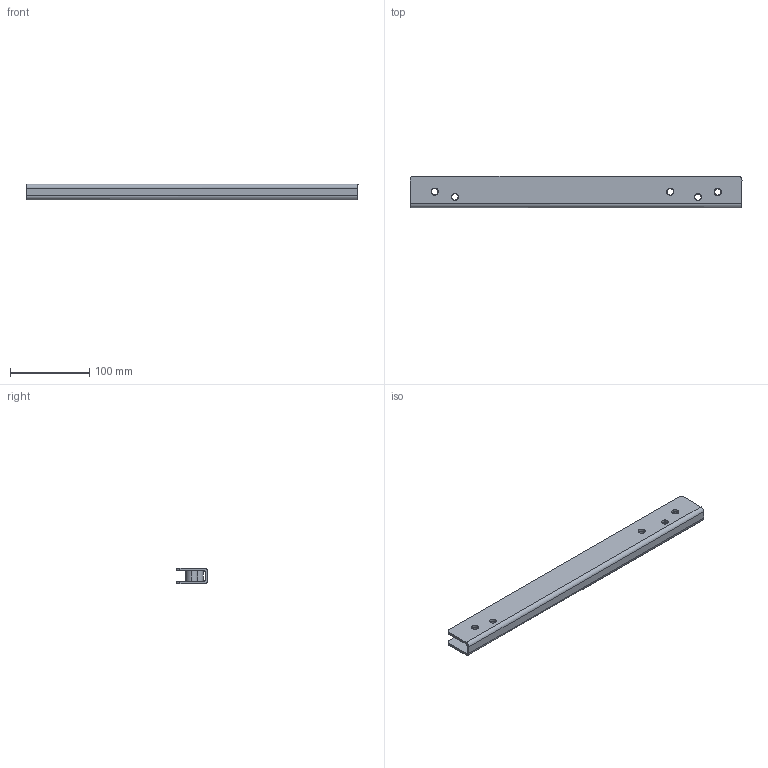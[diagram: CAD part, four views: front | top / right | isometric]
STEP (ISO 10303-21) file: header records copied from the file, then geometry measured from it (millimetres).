
FILE_DESCRIPTION(('CATIA V5 STEP Exchange'),'2;1');
FILE_NAME('C:\Users\Administrator\Desktop\J6G样件数据\旋转副驾\转盘与滑轨连接梁总成.stp','2023-04-10T05:26:19+00:00',('none'),('none'),'CATIA Version 5 Release 20 GA (IN-10)','CATIA V5 STEP AP214','none');
FILE_SCHEMA(('AUTOMOTIVE_DESIGN { 1 0 10303 214 1 1 1 1 }'));
Length unit declared in the file: millimetre
Products named in the file (4): 888; 222; SQXM3000-6805834; b
Assembly tree (7 placements, depth 3):
  888
    222
      SQXM3000-6805834  x5
      b
Bounding box: 420.03 x 40.38 x 20.01 mm (x, y, z)
Volume: 121475.6 mm3; surface area: 85190.8 mm2
Topology: 6 solids, 6 shells, 108 faces, 268 edges, 172 vertices
Faces by surface type: cylinder 48, cone 40, plane 20
Entity records: 2077 total; most frequent: CARTESIAN_POINT 665, ORIENTED_EDGE 280, DIRECTION 239, EDGE_CURVE 140, AXIS2_PLACEMENT_3D 120, VERTEX_POINT 92, EDGE_LOOP 74, CIRCLE 65
